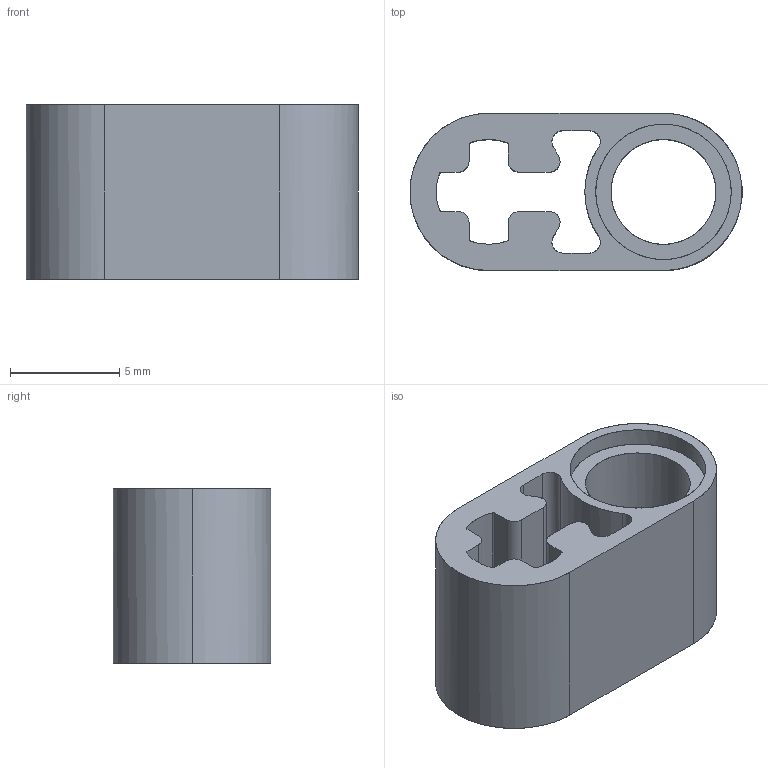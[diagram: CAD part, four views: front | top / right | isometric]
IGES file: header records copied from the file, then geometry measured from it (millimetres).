
Start section: C
Global section: file name: Black_6006140_AVV.iges; native system: By Siemens PLM Incorporated; preprocessor: XPlus GENERIC/IGES 26.1.183; author: Author; organization: Title; date: 20250721.234855; units: millimetre
Bounding box: 15.19 x 7.2 x 8 mm (x, y, z)
Surface area: 790.7 mm2 (no closed solid volume)
Topology: 0 solids, 0 shells, 48 faces, 276 edges, 276 vertices
Faces by surface type: bspline 48
